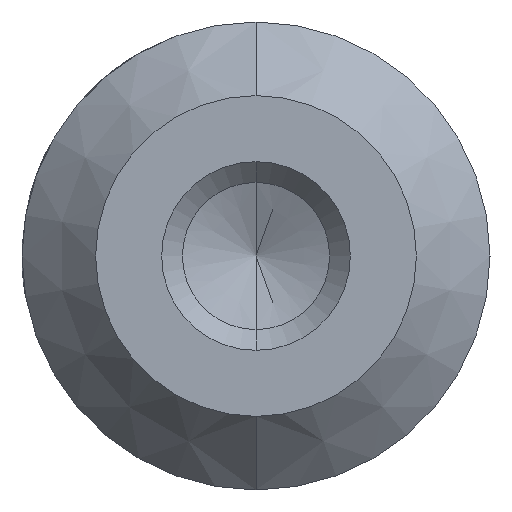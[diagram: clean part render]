
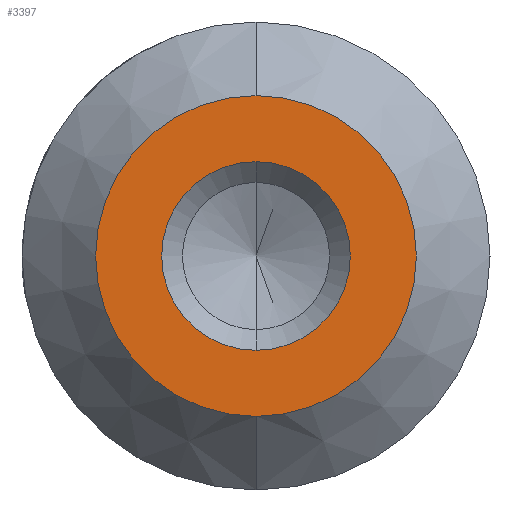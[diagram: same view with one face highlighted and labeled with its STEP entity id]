
A CAD part, left-side view. The second image highlights one B-rep face of the part: STEP entity #3397.
In plain terms, the highlighted planar face has unit normal (-1, 0, 0).
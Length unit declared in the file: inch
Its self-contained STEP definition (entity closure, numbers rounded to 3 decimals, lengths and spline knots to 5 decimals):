
#922 = ORIENTED_EDGE ( 'NONE', *, *, #3550, .F. ) ;
#923 = ORIENTED_EDGE ( 'NONE', *, *, #3518, .F. ) ;
#924 = ORIENTED_EDGE ( 'NONE', *, *, #3551, .T. ) ;
#925 = ORIENTED_EDGE ( 'NONE', *, *, #3501, .T. ) ;
#959 = VERTEX_POINT ( 'NONE', #7041 ) ;
#965 = VERTEX_POINT ( 'NONE', #7047 ) ;
#978 = VERTEX_POINT ( 'NONE', #7060 ) ;
#979 = VERTEX_POINT ( 'NONE', #7061 ) ;
#2992 = CARTESIAN_POINT ( 'NONE',  ( 0., 0., 0. ) ) ;
#2993 = DIRECTION ( 'NONE',  ( -1., 0., 0. ) ) ;
#2994 = DIRECTION ( 'NONE',  ( 0., 0., 1. ) ) ;
#3091 = CARTESIAN_POINT ( 'NONE',  ( 0., 0., 0. ) ) ;
#3092 = DIRECTION ( 'NONE',  ( -1., 0., 0. ) ) ;
#3093 = DIRECTION ( 'NONE',  ( 0., 0., 1. ) ) ;
#3273 = CARTESIAN_POINT ( 'NONE',  ( 0., 0., 0. ) ) ;
#3274 = DIRECTION ( 'NONE',  ( -1., 0., 0. ) ) ;
#3275 = DIRECTION ( 'NONE',  ( 0., 0., 1. ) ) ;
#3276 = CARTESIAN_POINT ( 'NONE',  ( 0., 0., 0. ) ) ;
#3277 = DIRECTION ( 'NONE',  ( -1., 0., 0. ) ) ;
#3278 = DIRECTION ( 'NONE',  ( 0., 0., 1. ) ) ;
#3397 = ADVANCED_FACE ( 'NONE', ( #7571, #7572 ), #7573, .F. ) ;
#3501 = EDGE_CURVE ( 'NONE', #959, #965, #10658, .T. ) ;
#3518 = EDGE_CURVE ( 'NONE', #979, #978, #10340, .T. ) ;
#3550 = EDGE_CURVE ( 'NONE', #978, #979, #10689, .T. ) ;
#3551 = EDGE_CURVE ( 'NONE', #965, #959, #10584, .T. ) ;
#7041 = CARTESIAN_POINT ( 'NONE',  ( 0., 0., 0.17 ) ) ;
#7047 = CARTESIAN_POINT ( 'NONE',  ( 0., 0., -0.17 ) ) ;
#7060 = CARTESIAN_POINT ( 'NONE',  ( 0., 0., 0.1 ) ) ;
#7061 = CARTESIAN_POINT ( 'NONE',  ( 0., 0., -0.1 ) ) ;
#7568 = CARTESIAN_POINT ( 'NONE',  ( 0., 0., 0. ) ) ;
#7571 = FACE_BOUND ( 'NONE', #11270, .T. ) ;
#7572 = FACE_OUTER_BOUND ( 'NONE', #11277, .T. ) ;
#7573 = PLANE ( 'NONE',  #10270 ) ;
#7575 = DIRECTION ( 'NONE',  ( 1., 0., 0. ) ) ;
#7576 = DIRECTION ( 'NONE',  ( 0., 0., -1. ) ) ;
#10193 = AXIS2_PLACEMENT_3D ( 'NONE', #3276, #3277, #3278 ) ;
#10270 = AXIS2_PLACEMENT_3D ( 'NONE', #7568, #7575, #7576 ) ;
#10340 = CIRCLE ( 'NONE', #10381, 0.1 ) ;
#10381 = AXIS2_PLACEMENT_3D ( 'NONE', #3091, #3092, #3093 ) ;
#10400 = AXIS2_PLACEMENT_3D ( 'NONE', #2992, #2993, #2994 ) ;
#10584 = CIRCLE ( 'NONE', #10193, 0.17 ) ;
#10658 = CIRCLE ( 'NONE', #10400, 0.17 ) ;
#10669 = AXIS2_PLACEMENT_3D ( 'NONE', #3273, #3274, #3275 ) ;
#10689 = CIRCLE ( 'NONE', #10669, 0.1 ) ;
#11270 = EDGE_LOOP ( 'NONE', ( #922, #923 ) ) ;
#11277 = EDGE_LOOP ( 'NONE', ( #924, #925 ) ) ;
